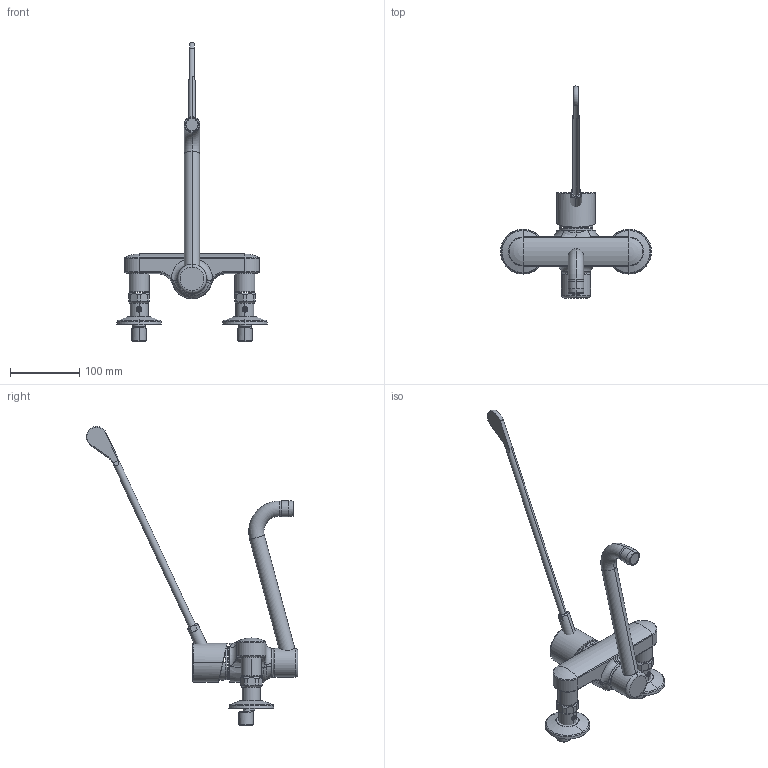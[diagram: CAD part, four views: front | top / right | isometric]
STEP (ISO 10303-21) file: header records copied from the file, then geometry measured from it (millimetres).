
FILE_DESCRIPTION((''),'2;1');
FILE_NAME('K_24_62_14_XXXB91','2024-08-23T11:16:58',('BS983'),(''),'CREO PARAMETRIC BY PTC INC, 2022244','CREO PARAMETRIC BY PTC INC, 2022244','');
FILE_SCHEMA(('CONFIG_CONTROL_DESIGN'));
Length unit declared in the file: millimetre
Products named in the file (1): K_24_62_14_XXXB91
Bounding box: 218 x 305.74 x 432.09 mm (x, y, z)
Surface area: 117092.1 mm2 (no closed solid volume)
Topology: 0 solids, 50 shells, 635 faces, 1850 edges, 1222 vertices
Faces by surface type: plane 449, cylinder 60, torus 47, cone 37, bspline 27, sphere 15
Entity records: 22153 total; most frequent: CARTESIAN_POINT 6376, DIRECTION 3258, ORIENTED_EDGE 2711, EDGE_CURVE 1845, VECTOR 1362, LINE 1362, VERTEX_POINT 1222, AXIS2_PLACEMENT_3D 948
